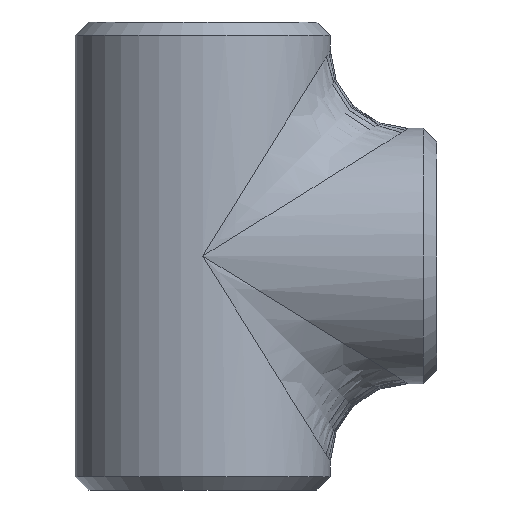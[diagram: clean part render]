
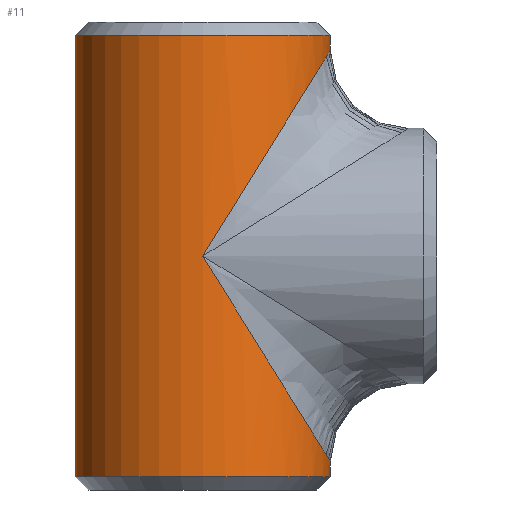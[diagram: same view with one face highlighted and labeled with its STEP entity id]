
A CAD part, front view. The second image highlights one B-rep face of the part: STEP entity #11.
In plain terms, the highlighted cylindrical face has radius 57.15 mm (diameter 114.3 mm), a partial arc.
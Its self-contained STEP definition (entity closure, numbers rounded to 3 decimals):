
#11 = ADVANCED_FACE ( 'NONE', ( #1046 ), #1254, .T. ) ;
#17 = VERTEX_POINT ( 'NONE', #374 ) ;
#22 = CARTESIAN_POINT ( 'NONE',  ( 0., 0., 98.79 ) ) ;
#28 = EDGE_CURVE ( 'NONE', #17, #1298, #360, .T. ) ;
#65 = LINE ( 'NONE', #705, #791 ) ;
#119 = CARTESIAN_POINT ( 'NONE',  ( 0., 0., -98.79 ) ) ;
#137 = CARTESIAN_POINT ( 'NONE',  ( 57.15, 0., -92.15 ) ) ;
#147 = ORIENTED_EDGE ( 'NONE', *, *, #719, .T. ) ;
#196 = VERTEX_POINT ( 'NONE', #708 ) ;
#202 = CARTESIAN_POINT ( 'NONE',  ( 57.15, -33.478, -92.15 ) ) ;
#211 = ORIENTED_EDGE ( 'NONE', *, *, #1022, .T. ) ;
#238 = VERTEX_POINT ( 'NONE', #757 ) ;
#240 = DIRECTION ( 'NONE',  ( 0., 0., 1. ) ) ;
#267 = EDGE_CURVE ( 'NONE', #196, #1298, #867, .T. ) ;
#281 = DIRECTION ( 'NONE',  ( 0., 0., -1. ) ) ;
#297 = CARTESIAN_POINT ( 'NONE',  ( 57.15, 0., 104.8 ) ) ;
#360 =( BOUNDED_CURVE ( )  B_SPLINE_CURVE ( 3, ( #594, #1034, #600, #721 ),
 .UNSPECIFIED., .F., .F. ) 
 B_SPLINE_CURVE_WITH_KNOTS ( ( 4, 4 ),
 ( 1.571, 3.142 ),
 .UNSPECIFIED. ) 
 CURVE ( )  GEOMETRIC_REPRESENTATION_ITEM ( )  RATIONAL_B_SPLINE_CURVE ( ( 1., 0.805, 0.805, 1. ) ) 
 REPRESENTATION_ITEM ( '' )  );
#370 = DIRECTION ( 'NONE',  ( 0., 0., -1. ) ) ;
#374 = CARTESIAN_POINT ( 'NONE',  ( 0., -57.15, 0. ) ) ;
#395 = CARTESIAN_POINT ( 'NONE',  ( 0., 0., 104.8 ) ) ;
#405 = CARTESIAN_POINT ( 'NONE',  ( 0., -57.15, 0. ) ) ;
#408 = EDGE_CURVE ( 'NONE', #769, #17, #591, .T. ) ;
#429 = CARTESIAN_POINT ( 'NONE',  ( 57.15, 0., 104.8 ) ) ;
#470 = DIRECTION ( 'NONE',  ( 1., 0., 0. ) ) ;
#518 = CARTESIAN_POINT ( 'NONE',  ( 57.15, 0., -98.79 ) ) ;
#526 = EDGE_CURVE ( 'NONE', #769, #909, #1050, .T. ) ;
#543 = VECTOR ( 'NONE', #1382, 1000. ) ;
#549 = CARTESIAN_POINT ( 'NONE',  ( -57.15, 0., 98.79 ) ) ;
#567 = ORIENTED_EDGE ( 'NONE', *, *, #408, .T. ) ;
#591 =( BOUNDED_CURVE ( )  B_SPLINE_CURVE ( 3, ( #1282, #202, #648, #405 ),
 .UNSPECIFIED., .F., .T. ) 
 B_SPLINE_CURVE_WITH_KNOTS ( ( 4, 4 ),
 ( 3.142, 4.712 ),
 .UNSPECIFIED. ) 
 CURVE ( )  GEOMETRIC_REPRESENTATION_ITEM ( )  RATIONAL_B_SPLINE_CURVE ( ( 1., 0.805, 0.805, 1. ) ) 
 REPRESENTATION_ITEM ( '' )  );
#594 = CARTESIAN_POINT ( 'NONE',  ( 0., -57.15, 0. ) ) ;
#600 = CARTESIAN_POINT ( 'NONE',  ( 57.15, -33.478, 92.15 ) ) ;
#648 = CARTESIAN_POINT ( 'NONE',  ( 33.478, -57.15, -53.98 ) ) ;
#705 = CARTESIAN_POINT ( 'NONE',  ( -57.15, 0., 104.8 ) ) ;
#708 = CARTESIAN_POINT ( 'NONE',  ( 57.15, 0., 98.79 ) ) ;
#719 = EDGE_CURVE ( 'NONE', #238, #909, #1245, .T. ) ;
#721 = CARTESIAN_POINT ( 'NONE',  ( 57.15, 0., 92.15 ) ) ;
#737 = VERTEX_POINT ( 'NONE', #549 ) ;
#757 = CARTESIAN_POINT ( 'NONE',  ( -57.15, 0., -98.79 ) ) ;
#769 = VERTEX_POINT ( 'NONE', #137 ) ;
#791 = VECTOR ( 'NONE', #1027, 1000. ) ;
#810 = DIRECTION ( 'NONE',  ( -1., 0., 0. ) ) ;
#833 = CARTESIAN_POINT ( 'NONE',  ( 57.15, 0., 92.15 ) ) ;
#853 = ORIENTED_EDGE ( 'NONE', *, *, #28, .T. ) ;
#857 = DIRECTION ( 'NONE',  ( 0., 0., -1. ) ) ;
#867 = LINE ( 'NONE', #429, #543 ) ;
#881 = VECTOR ( 'NONE', #857, 1000. ) ;
#909 = VERTEX_POINT ( 'NONE', #518 ) ;
#951 = ORIENTED_EDGE ( 'NONE', *, *, #526, .F. ) ;
#966 = ORIENTED_EDGE ( 'NONE', *, *, #1393, .T. ) ;
#994 = DIRECTION ( 'NONE',  ( 1., 0., 0. ) ) ;
#1022 = EDGE_CURVE ( 'NONE', #737, #238, #65, .T. ) ;
#1027 = DIRECTION ( 'NONE',  ( 0., 0., -1. ) ) ;
#1034 = CARTESIAN_POINT ( 'NONE',  ( 33.478, -57.15, 53.98 ) ) ;
#1042 = AXIS2_PLACEMENT_3D ( 'NONE', #119, #240, #470 ) ;
#1046 = FACE_OUTER_BOUND ( 'NONE', #1329, .T. ) ;
#1050 = LINE ( 'NONE', #297, #881 ) ;
#1199 = CIRCLE ( 'NONE', #1377, 57.15 ) ;
#1245 = CIRCLE ( 'NONE', #1042, 57.15 ) ;
#1254 = CYLINDRICAL_SURFACE ( 'NONE', #1324, 57.15 ) ;
#1282 = CARTESIAN_POINT ( 'NONE',  ( 57.15, 0., -92.15 ) ) ;
#1298 = VERTEX_POINT ( 'NONE', #833 ) ;
#1322 = ORIENTED_EDGE ( 'NONE', *, *, #267, .F. ) ;
#1324 = AXIS2_PLACEMENT_3D ( 'NONE', #395, #281, #810 ) ;
#1329 = EDGE_LOOP ( 'NONE', ( #1322, #966, #211, #147, #951, #567, #853 ) ) ;
#1377 = AXIS2_PLACEMENT_3D ( 'NONE', #22, #370, #994 ) ;
#1382 = DIRECTION ( 'NONE',  ( 0., 0., -1. ) ) ;
#1393 = EDGE_CURVE ( 'NONE', #196, #737, #1199, .T. ) ;
